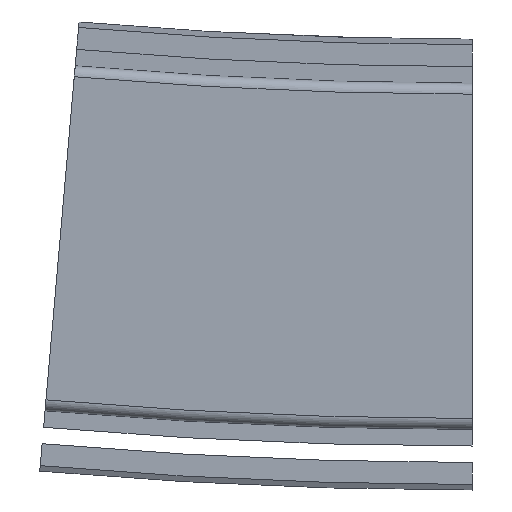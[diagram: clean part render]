
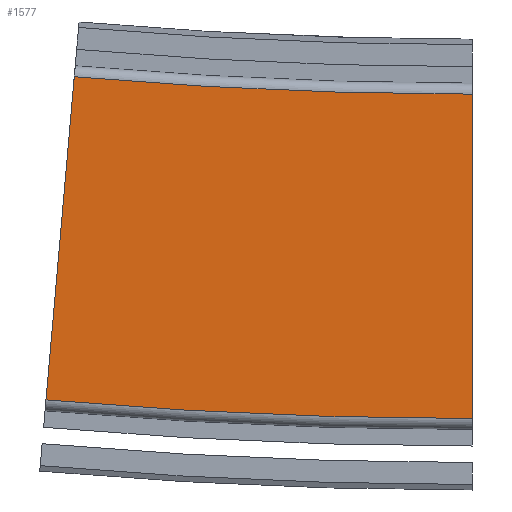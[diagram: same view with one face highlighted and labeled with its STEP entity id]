
A CAD part, left-side view. The second image highlights one B-rep face of the part: STEP entity #1577.
In plain terms, the highlighted planar face has unit normal (-1, 0, 0).
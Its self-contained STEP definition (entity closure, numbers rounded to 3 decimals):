
#126=PLANE('',#1712);
#200=FACE_OUTER_BOUND('',#292,.T.);
#292=EDGE_LOOP('',(#1300,#1301,#1302,#1303));
#360=CIRCLE('',#1711,830.5);
#361=CIRCLE('',#1713,889.5);
#464=LINE('',#7170,#590);
#465=LINE('',#7172,#591);
#590=VECTOR('',#2010,10.);
#591=VECTOR('',#2011,10.);
#750=VERTEX_POINT('',#7163);
#751=VERTEX_POINT('',#7165);
#752=VERTEX_POINT('',#7169);
#753=VERTEX_POINT('',#7171);
#950=EDGE_CURVE('',#750,#751,#360,.T.);
#951=EDGE_CURVE('',#752,#750,#464,.T.);
#952=EDGE_CURVE('',#753,#751,#465,.T.);
#953=EDGE_CURVE('',#752,#753,#361,.T.);
#1300=ORIENTED_EDGE('',*,*,#951,.T.);
#1301=ORIENTED_EDGE('',*,*,#950,.T.);
#1302=ORIENTED_EDGE('',*,*,#952,.F.);
#1303=ORIENTED_EDGE('',*,*,#953,.F.);
#1577=ADVANCED_FACE('',(#200),#126,.T.);
#1711=AXIS2_PLACEMENT_3D('',#7167,#2006,#2007);
#1712=AXIS2_PLACEMENT_3D('',#7168,#2008,#2009);
#1713=AXIS2_PLACEMENT_3D('',#7173,#2012,#2013);
#2006=DIRECTION('center_axis',(1.,0.,0.));
#2007=DIRECTION('ref_axis',(0.,0.,
-1.));
#2008=DIRECTION('center_axis',(-1.,0.,0.));
#2009=DIRECTION('ref_axis',(0.,0.,1.));
#2010=DIRECTION('',(0.,0.,1.));
#2011=DIRECTION('',(0.,-0.087,0.996));
#2012=DIRECTION('center_axis',(1.,0.,0.));
#2013=DIRECTION('ref_axis',(0.,0.,
-1.));
#7163=CARTESIAN_POINT('',(-43.,0.,29.5));
#7165=CARTESIAN_POINT('',(-43.,72.383,32.66));
#7167=CARTESIAN_POINT('Origin',(-43.,0.,
860.));
#7168=CARTESIAN_POINT('Origin',(-43.,0.,-29.5));
#7169=CARTESIAN_POINT('',(-43.,0.,-29.5));
#7170=CARTESIAN_POINT('',(-43.,0.,-29.5));
#7171=CARTESIAN_POINT('',(-43.,77.525,-26.115));
#7172=CARTESIAN_POINT('',(-43.,77.525,-26.115));
#7173=CARTESIAN_POINT('Origin',(-43.,0.,
860.));
